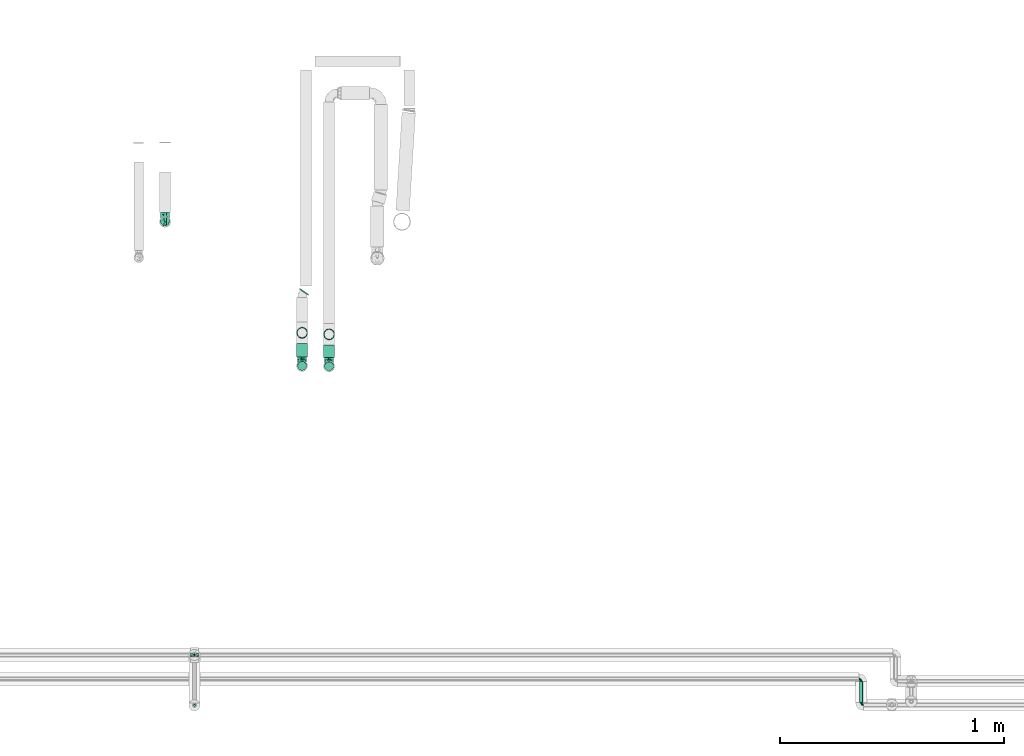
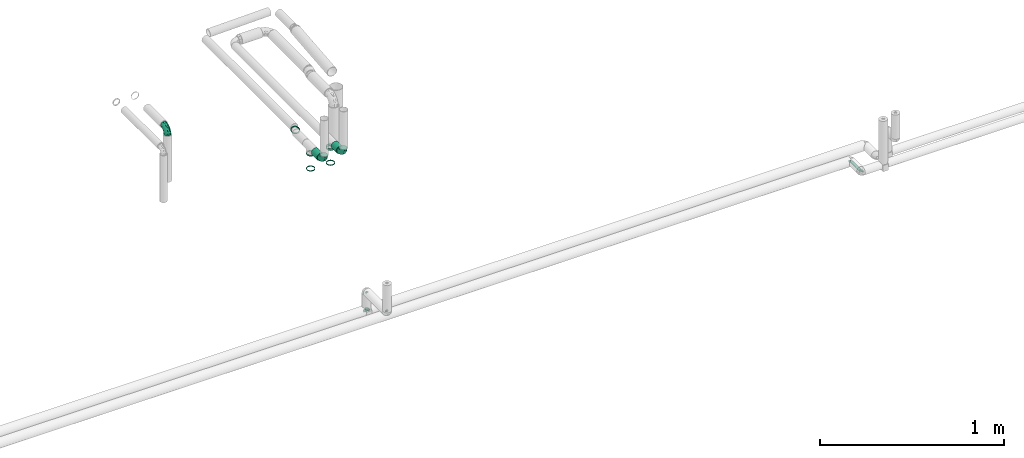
# One storey, part 104 of 156: 8 flow fittings, 8 flow segments.
"""IFC2X3 building model written with IfcOpenShell, lengths in millimetres."""

from ifc_helpers import new_model, entity, si_unit, converted_unit, derived_unit, direction, frame, origin_with_axes, origin_2d_with_axis, place, context, subcontext, project, spatial, hollow_circle, extrude, open_shell, surface_model, source, transform, mapped, type_object, element, save


model = new_model("IFC2X3")

# Units and contexts
model_context = context("Model", 3, precision=0.01, world=frame((0.0, 4.29681676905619e-09, 0.0)), true_north=direction((4.01073788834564e-13, 1.0)))
plan_context = context("Plan", 3, precision=0.01, world=frame((0.0, 4.29681676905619e-09, 0.0)), true_north=direction((4.01073788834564e-13, 1.0)))
body_context = subcontext(model_context, "Body", "Model", "MODEL_VIEW")
ifc_project = project(units=[converted_unit("PLANEANGLEUNIT", "DEGREE", entity("IfcPositiveLengthMeasure", 0.0174532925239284), si_unit("PLANEANGLEUNIT", "RADIAN"), dimensions=[0, 0, 0, 0, 0, 0, 0]), si_unit("AREAUNIT", "SQUARE_METRE"), si_unit("LENGTHUNIT", "METRE", prefix="MILLI"), si_unit("MASSUNIT", "GRAM", prefix="KILO"), si_unit("POWERUNIT", "WATT"), si_unit("PRESSUREUNIT", "PASCAL", prefix="KILO"), si_unit("FORCEUNIT", "NEWTON", prefix="KILO"), si_unit("ELECTRICVOLTAGEUNIT", "VOLT"), si_unit("ELECTRICCURRENTUNIT", "AMPERE"), si_unit("THERMODYNAMICTEMPERATUREUNIT", "DEGREE_CELSIUS"), si_unit("TIMEUNIT", "SECOND"), si_unit("VOLUMEUNIT", "CUBIC_METRE"), derived_unit("LINEARVELOCITYUNIT", [(si_unit("LENGTHUNIT", "METRE"), 1), (si_unit("TIMEUNIT", "SECOND"), -1)]), derived_unit("VOLUMETRICFLOWRATEUNIT", [(si_unit("VOLUMEUNIT", "CUBIC_METRE"), 1), (si_unit("TIMEUNIT", "SECOND"), -1)]), derived_unit("THERMALTRANSMITTANCEUNIT", [(si_unit("POWERUNIT", "WATT"), 1), (si_unit("THERMODYNAMICTEMPERATUREUNIT", "KELVIN"), -1), (si_unit("AREAUNIT", "SQUARE_METRE"), -1)]), derived_unit("SOUNDPRESSUREUNIT", [(si_unit("PRESSUREUNIT", "PASCAL"), 1)])], contexts=[model_context, plan_context])

# Site, building, storey
site_placement = place(None, frame((0.0, -4.29681676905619e-09, 0.0), z_axis=(0.0, 0.0, 1.0), x_axis=(1.0, 0.0, 0.0)))
site = spatial("IfcSite", under=ifc_project, at=site_placement, CompositionType="ELEMENT")
building_placement = place(site_placement, frame((0.0, 4.29681676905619e-09, 0.0), z_axis=(0.0, 0.0, 1.0), x_axis=(1.0, 0.0, 0.0)))
building = spatial("IfcBuilding", under=site, at=building_placement, Name="mc-building", CompositionType="ELEMENT")
storey_placement = place(building_placement, frame((0.0, 0.0, 205200.0), z_axis=(0.0, 0.0, 1.0), x_axis=(1.0, 0.0, 0.0)))
storey = spatial("IfcBuildingStorey", under=building, at=storey_placement, Name="Nivå D + 1,2 m", CompositionType="ELEMENT", Elevation=205200.0)

# Flow fittings
pipe_fitting_type_1 = type_object("IfcPipeFittingType", Name="magi_pipe_elbow_short_001", PredefinedType="BEND")
shared_shape_1 = source(origin_with_axes(), body_context, "Body", "SurfaceModel", [
    surface_model("IfcShellBasedSurfaceModel", [(-40.0, 0.0, -20.0), (-40.0, -14.14214, -14.14214), (-40.0, 5.17638, -19.31852), (-40.0, 10.0, -17.32051), (-40.0, 14.14214, -14.14214), (-40.0, 19.31852, -5.17638), (-40.0, 17.32051, -10.0), (-40.0, -20.0, 0.0), (-40.0, 17.32051, 10.0), (-40.0, -10.0, -17.32051), (-40.0, -5.17638, -19.31852), (-40.0, -19.31852, -5.17638), (-40.0, -17.32051, -10.0), (-40.0, 20.0, 0.0), (-40.0, 19.31852, 5.17638), (-40.0, 5.17638, 19.31852), (-40.0, 10.0, 17.32051), (-40.0, 14.14214, 14.14214), (-40.0, -14.14214, 14.14214), (-40.0, -19.31852, 5.17638), (-40.0, -17.32051, 10.0), (-40.0, -10.0, 17.32051), (-40.0, -5.17638, 19.31852), (-40.0, 0.0, 20.0), (-5.17638, 40.0, -19.31852), (14.14214, 40.0, -14.14214), (0.0, 40.0, -20.0), (-14.14214, 40.0, -14.14214), (-10.0, 40.0, -17.32051), (-17.32051, 40.0, -10.0), (-19.31852, 40.0, -5.17638), (14.14214, 40.0, 14.14214), (20.0, 40.0, 0.0), (5.17638, 40.0, -19.31852), (10.0, 40.0, -17.32051), (17.32051, 40.0, -10.0), (19.31852, 40.0, -5.17638), (-20.0, 40.0, 0.0), (-19.31852, 40.0, 5.17638), (-17.32051, 40.0, 10.0), (-10.0, 40.0, 17.32051), (-5.17638, 40.0, 19.31852), (-14.14214, 40.0, 14.14214), (17.32051, 40.0, 10.0), (19.31852, 40.0, 5.17638), (5.17638, 40.0, 19.31852), (10.0, 40.0, 17.32051), (0.0, 40.0, 20.0), (-29.34188, -15.53782, 11.22746), (-26.26375, -11.53868, 14.90313), (-28.5195, -17.71639, 0.0), (-17.67969, -12.73676, 10.09432), (-26.581, -17.45622, 6.2376), (17.45622, 26.581, 6.2376), (14.11254, 15.66731, 5.12705), (15.43277, 17.03899, 0.0), (9.12884, 16.19937, 13.67918), (11.53868, 26.26374, 14.90313), (4.85407, 15.45219, 16.6156), (-29.39654, -7.56287, 17.99385), (-30.5536, -2.64945, 19.65795), (-28.00649, 3.06573, 19.96591), (-31.36589, 16.64512, 13.11423), (-28.65389, 20.90373, 9.14387), (-35.012, 18.78056, 8.28737), (-7.30629, -8.92959, 0.0), (-15.66731, -14.11254, 5.12706), (-17.03899, -15.43277, 0.0), (-21.08206, 22.33578, 14.16691), (-7.46564, 34.49868, 18.73357), (-2.74108, 29.91718, 19.95088), (-34.60263, 12.11166, 16.29648), (-1.72118, -3.38092, 9.01154), (-0.33521, 0.41269, 11.94686), (-6.79863, -4.78945, 12.32213), (-5.22056, 13.39548, 19.63795), (-9.93759, 3.66904, 18.67597), (-2.04318, 10.80545, 18.37976), (-20.59063, 29.29402, 9.05298), (-30.99684, 23.72923, 0.0), (-33.3079, 20.46931, 5.03972), (-30.83014, 7.84391, 18.89286), (-6.95093, 19.66798, 19.96412), (-14.81429, 14.81429, 19.51404), (-11.90902, 8.73983, 19.89698), (-3.57257, 3.57257, 16.3517), (-15.45219, -4.85407, 16.6156), (-19.91187, -0.17948, 19.38507), (12.73676, 17.67969, 10.09432), (15.53782, 29.34188, 11.22746), (7.56287, 29.39654, 17.99385), (2.64945, 30.5536, 19.65795), (-16.19937, -9.12884, 13.67918), (17.71639, 28.5195, 0.0), (-8.64963, 27.10049, 19.0472), (-12.63856, 30.97531, 16.57751), (-15.12775, 21.6204, 17.82326), (-16.43269, 26.57078, 15.30466), (-21.36029, 17.94675, 16.62052), (-27.3569, 23.76542, 4.76906), (-25.85786, 25.85786, 0.0), (-21.96234, 30.15713, 4.65165), (-16.51055, 31.89032, 13.05667), (-21.9775, 8.56694, 19.64209), (-19.62526, 4.90086, 19.99146), (-21.26232, 13.57052, 18.49883), (-11.65033, 20.761, 19.15903), (0.17948, 19.91187, 19.38507), (-27.54091, 13.57635, 16.84206), (4.55434, 6.94667, 12.66832), (-9.49254, -8.92796, 9.38786), (1.18751, -2.59773, 5.41318), (6.0734, 3.56218, 6.98463), (6.20309, 2.0761, 2.99722), (10.30126, 8.34257, 4.72404), (-23.72923, 30.99684, 0.0), (10.04165, 10.37513, 8.39403), (-5.39039, -7.95342, 5.80688), (2.42641, -2.42641, 0.0), (8.92959, 7.30629, 0.0), (-31.66153, 2.52887, -19.93491), (-17.30171, 29.27577, -13.34599), (-33.67189, -15.92112, -11.62006), (-30.77478, 7.85272, -18.89521), (-27.29854, 23.72276, -5.04381), (-16.33902, -5.04741, -16.77956), (-17.36687, -0.24948, -19.02234), (-8.03574, -0.33468, -16.38792), (-29.03652, 13.11356, -16.72682), (-31.62186, 16.57796, -13.08611), (11.94876, 28.93478, -15.1003), (6.90221, 25.32803, -17.78753), (7.88461, 33.77796, -18.20228), (-24.1205, 18.32787, -15.08398), (14.83158, 25.12948, -10.8327), (14.84608, 18.55034, -6.5666), (11.54106, 15.25773, -10.25258), (-18.52291, 23.24513, -15.40032), (-14.24293, 24.4556, -17.36881), (-18.4841, 18.4841, -17.5607), (-30.25505, -18.06161, 0.0), (-29.17694, -17.90454, -6.52017), (15.92112, 33.67189, -11.62006), (17.90454, 29.17694, -6.52017), (-8.70346, -9.83449, -6.69305), (-18.55035, -14.84608, -6.5666), (-28.93478, -11.94876, -15.1003), (0.19553, 0.48879, -11.49974), (-6.75335, -6.30847, -10.52412), (-6.08129, -2.80708, -13.65166), (-25.12948, -14.83158, -10.8327), (0.84196, 9.39483, -16.67908), (0.24948, 17.36687, -19.02234), (4.13362, 17.07423, -17.47196), (-29.4664, -2.52175, -19.63432), (-33.77796, -7.88461, -18.20228), (-21.82705, -9.13211, -15.70364), (2.52175, 29.4664, -19.63432), (-33.89754, 20.64393, -3.42388), (2.01203, -1.52334, -6.02964), (-19.61026, 31.73902, -8.71711), (-20.93556, 32.45716, -4.4545), (-15.25774, -11.54106, -10.25258), (-7.06048, 7.06048, -18.88537), (-24.30425, 23.77923, -9.81047), (-2.52887, 31.66153, -19.93491), (-8.16417, 29.098, -18.96542), (-12.55313, 31.39831, -16.5449), (-25.32803, -6.90221, -17.78753), (3.46973, 6.97784, -13.67949), (8.1585, 14.93305, -13.99093), (6.60421, 7.04526, -10.40775), (-4.72795, 22.03311, -19.99568), (9.83449, 8.70346, -6.69305), (-10.81456, 11.67039, -19.98865), (-11.83412, 18.95999, -19.40472), (-19.74646, 11.57433, -19.33963), (-31.97533, 19.65868, -8.43762), (18.06161, 30.25505, 0.0), (-22.03311, 4.72795, -19.99568), (-22.92893, 32.92893, 0.0), (-14.93305, -8.1585, -13.99093), (-22.3042, 22.6511, -12.97687)], [open_shell([[[0, 1, 2]], [[3, 2, 4]], [[5, 6, 4]], [[4, 2, 1]], [[4, 7, 8]], [[9, 1, 10]], [[1, 0, 10]], [[11, 7, 12]], [[1, 12, 7]], [[1, 7, 4]], [[13, 5, 4]], [[8, 14, 13]], [[7, 15, 8]], [[8, 15, 16]], [[17, 8, 16]], [[18, 15, 7]], [[19, 20, 7]], [[7, 20, 18]], [[21, 22, 18]], [[22, 15, 18]], [[15, 22, 23]], [[8, 13, 4]], [[24, 25, 26]], [[27, 24, 28]], [[27, 29, 30]], [[25, 24, 27]], [[31, 32, 27]], [[33, 25, 34]], [[33, 26, 25]], [[35, 32, 36]], [[32, 35, 25]], [[27, 32, 25]], [[27, 30, 31]], [[37, 38, 39]], [[30, 39, 31]], [[40, 41, 39]], [[40, 39, 42]], [[31, 39, 41]], [[32, 43, 44]], [[31, 43, 32]], [[31, 45, 46]], [[31, 41, 45]], [[47, 45, 41]], [[30, 37, 39]], [[18, 48, 49]], [[19, 7, 50]], [[51, 48, 52]], [[53, 54, 55]], [[48, 18, 20]], [[19, 52, 20]], [[56, 57, 58]], [[49, 21, 18]], [[49, 59, 21]], [[23, 60, 61]], [[62, 63, 64]], [[65, 66, 67]], [[57, 31, 46]], [[62, 68, 63]], [[41, 69, 70]], [[16, 71, 17]], [[22, 60, 23]], [[72, 73, 74]], [[75, 76, 77]], [[17, 62, 8]], [[39, 38, 78]], [[79, 13, 80]], [[64, 14, 8]], [[23, 61, 15]], [[15, 81, 16]], [[82, 83, 84]], [[74, 85, 86]], [[59, 86, 87]], [[88, 89, 57]], [[90, 46, 45]], [[43, 53, 44]], [[45, 47, 91]], [[54, 53, 88]], [[43, 89, 53]], [[92, 86, 49]], [[89, 43, 31]], [[21, 59, 22]], [[53, 55, 93]], [[93, 44, 53]], [[66, 52, 67]], [[94, 82, 70]], [[95, 96, 94]], [[97, 98, 96]], [[79, 99, 100]], [[40, 42, 95]], [[101, 100, 99]], [[68, 78, 63]], [[41, 40, 69]], [[13, 14, 80]], [[95, 94, 69]], [[78, 101, 99]], [[42, 102, 95]], [[70, 47, 41]], [[97, 95, 102]], [[19, 50, 52]], [[90, 57, 46]], [[57, 90, 58]], [[81, 15, 61]], [[103, 104, 84]], [[105, 81, 103]], [[42, 39, 102]], [[106, 96, 83]], [[94, 106, 82]], [[91, 70, 107]], [[71, 62, 17]], [[62, 108, 98]], [[86, 59, 49]], [[67, 52, 50]], [[60, 59, 87]], [[92, 49, 51]], [[86, 85, 76]], [[91, 90, 45]], [[32, 44, 93]], [[107, 77, 58]], [[107, 58, 90]], [[58, 85, 109]], [[110, 74, 92]], [[72, 74, 110]], [[66, 51, 52]], [[72, 111, 112]], [[113, 114, 112]], [[56, 88, 57]], [[52, 48, 20]], [[49, 48, 51]], [[57, 89, 31]], [[53, 89, 88]], [[103, 81, 61]], [[71, 81, 108]], [[14, 64, 80]], [[63, 78, 99]], [[37, 115, 101]], [[101, 115, 100]], [[39, 78, 102]], [[68, 102, 78]], [[97, 96, 95]], [[105, 98, 108]], [[103, 84, 83]], [[107, 70, 82]], [[76, 84, 87]], [[82, 84, 75]], [[70, 91, 47]], [[90, 91, 107]], [[59, 60, 22]], [[61, 60, 87]], [[73, 85, 74]], [[109, 112, 116]], [[103, 61, 104]], [[105, 103, 83]], [[96, 105, 83]], [[81, 105, 108]], [[96, 98, 105]], [[62, 98, 68]], [[61, 87, 104]], [[87, 84, 104]], [[86, 76, 87]], [[77, 76, 85]], [[58, 77, 85]], [[75, 77, 107]], [[82, 75, 107]], [[76, 75, 84]], [[81, 71, 16]], [[62, 71, 108]], [[95, 69, 40]], [[70, 69, 94]], [[62, 64, 8]], [[80, 63, 99]], [[63, 80, 64]], [[80, 99, 79]], [[66, 65, 117]], [[110, 66, 117]], [[112, 114, 116]], [[118, 117, 65]], [[110, 92, 51]], [[112, 111, 113]], [[119, 55, 54]], [[74, 86, 92]], [[58, 109, 56]], [[116, 56, 109]], [[66, 110, 51]], [[72, 110, 117]], [[111, 72, 117]], [[73, 112, 109]], [[117, 118, 111]], [[113, 111, 118]], [[118, 119, 113]], [[114, 119, 54]], [[119, 114, 113]], [[116, 54, 88]], [[54, 116, 114]], [[116, 88, 56]], [[112, 73, 72]], [[85, 73, 109]], [[78, 38, 101]], [[37, 101, 38]], [[102, 68, 97]], [[97, 68, 98]], [[82, 106, 83]], [[94, 96, 106]], [[2, 120, 0]], [[29, 27, 121]], [[1, 122, 12]], [[3, 123, 2]], [[100, 124, 79]], [[125, 126, 127]], [[128, 4, 129]], [[130, 131, 132]], [[128, 129, 133]], [[134, 135, 136]], [[137, 138, 139]], [[128, 3, 4]], [[67, 140, 141]], [[134, 142, 143]], [[141, 11, 12]], [[144, 65, 145]], [[146, 1, 9]], [[147, 148, 149]], [[145, 141, 150]], [[151, 152, 153]], [[154, 10, 0]], [[9, 155, 146]], [[150, 146, 156]], [[155, 9, 10]], [[143, 135, 134]], [[33, 157, 26]], [[13, 79, 158]], [[148, 159, 144]], [[160, 161, 30]], [[145, 162, 144]], [[163, 152, 151]], [[30, 29, 160]], [[121, 164, 160]], [[34, 25, 130]], [[26, 165, 24]], [[24, 165, 166]], [[142, 25, 35]], [[27, 28, 167]], [[124, 161, 164]], [[157, 33, 132]], [[155, 154, 168]], [[123, 3, 128]], [[169, 170, 171]], [[172, 157, 152]], [[24, 166, 28]], [[132, 33, 34]], [[142, 130, 25]], [[168, 154, 126]], [[136, 135, 173]], [[133, 137, 139]], [[4, 6, 129]], [[170, 131, 130]], [[35, 36, 143]], [[172, 174, 175]], [[176, 123, 128]], [[158, 177, 5]], [[135, 55, 119]], [[167, 28, 166]], [[175, 166, 172]], [[137, 167, 138]], [[122, 141, 12]], [[140, 7, 11]], [[36, 32, 178]], [[170, 130, 134]], [[152, 157, 131]], [[165, 157, 172]], [[153, 170, 151]], [[152, 163, 174]], [[168, 125, 156]], [[122, 146, 150]], [[120, 154, 0]], [[179, 174, 126]], [[179, 126, 154]], [[126, 163, 127]], [[162, 145, 150]], [[140, 11, 141]], [[36, 178, 143]], [[55, 143, 178]], [[177, 129, 6]], [[128, 133, 139]], [[176, 128, 139]], [[120, 123, 179]], [[121, 160, 29]], [[161, 100, 180]], [[166, 175, 138]], [[121, 27, 167]], [[161, 37, 30]], [[79, 124, 158]], [[124, 164, 177]], [[161, 124, 100]], [[136, 171, 170]], [[127, 163, 151]], [[147, 171, 159]], [[148, 144, 162]], [[127, 151, 169]], [[127, 181, 125]], [[129, 177, 164]], [[6, 5, 177]], [[159, 65, 144]], [[67, 141, 145]], [[143, 55, 135]], [[135, 119, 173]], [[123, 120, 2]], [[154, 120, 179]], [[157, 165, 26]], [[166, 165, 172]], [[172, 152, 174]], [[176, 139, 175]], [[126, 174, 163]], [[176, 174, 179]], [[174, 176, 175]], [[123, 176, 179]], [[150, 181, 162]], [[127, 149, 181]], [[181, 148, 162]], [[159, 148, 147]], [[171, 136, 173]], [[170, 134, 136]], [[159, 171, 173]], [[171, 147, 169]], [[169, 147, 149]], [[151, 170, 169]], [[164, 182, 129]], [[182, 121, 137]], [[181, 149, 148]], [[169, 149, 127]], [[182, 137, 133]], [[167, 137, 121]], [[166, 138, 167]], [[175, 139, 138]], [[129, 182, 133]], [[121, 182, 164]], [[161, 160, 164]], [[37, 161, 180]], [[177, 158, 124]], [[13, 158, 5]], [[130, 132, 34]], [[157, 132, 131]], [[143, 142, 35]], [[130, 142, 134]], [[154, 155, 10]], [[146, 155, 168]], [[146, 122, 1]], [[141, 122, 150]], [[152, 131, 153]], [[159, 119, 118]], [[67, 145, 65]], [[170, 153, 131]], [[119, 159, 173]], [[159, 118, 65]], [[156, 125, 181]], [[126, 125, 168]], [[150, 156, 181]], [[168, 156, 146]]])]),
])
for number, where, z_axis, x_axis, name in (
    (1, (343633.85487, 460322.29788, 4249.39240000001), (1.0, 0.0, 0.0), (0.0, 0.0, -1.0), "magi_pipe_elbow_short_001"),
    (2, (343513.62466, 460324.09861, 4244.18497999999), (1.0, 0.0, 0.0), (0.0, 0.0, -1.0), "magi_pipe_elbow_short_001"),
    (3, (342902.82938, 460966.59861, 4284.42444999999), (-1.0, 0.0, 0.0), (0.0, 0.0, 1.0), "magi_pipe_elbow_short_001"),
):
    element("IfcFlowFitting", number, at=place(storey_placement, frame(where, z_axis=z_axis, x_axis=x_axis)), inside=storey, type_object=pipe_fitting_type_1, Name=name, context=body_context, shape_type="MappedRepresentation", body=[
        mapped(shared_shape_1, transform((0.0, 0.0, 0.0), scale=1.0)),
    ])
shared_shape_2 = source(origin_with_axes(), body_context, "Body", "SurfaceModel", [
    surface_model("IfcShellBasedSurfaceModel", [(-10.0, 0.0, -5.0), (-10.0, -3.53553, -3.53553), (-10.0, 1.2941, -4.82963), (-10.0, 2.5, -4.33013), (-10.0, 3.53553, -3.53553), (-10.0, 4.82963, -1.2941), (-10.0, 4.33013, -2.5), (-10.0, -5.0, 0.0), (-10.0, 4.33013, 2.5), (-10.0, -2.5, -4.33013), (-10.0, -1.2941, -4.82963), (-10.0, -4.82963, -1.2941), (-10.0, -4.33013, -2.5), (-10.0, 5.0, 0.0), (-10.0, 4.82963, 1.2941), (-10.0, -3.53553, 3.53553), (-10.0, 1.2941, 4.82963), (-10.0, 2.5, 4.33013), (-10.0, 3.53553, 3.53553), (-10.0, -1.2941, 4.82963), (-10.0, -4.82963, 1.2941), (-10.0, -4.33013, 2.5), (-10.0, -2.5, 4.33013), (-10.0, 0.0, 5.0), (-1.2941, 10.0, -4.82963), (3.53553, 10.0, -3.53553), (0.0, 10.0, -5.0), (-3.53553, 10.0, -3.53553), (-2.5, 10.0, -4.33013), (-4.33013, 10.0, -2.5), (-4.82963, 10.0, -1.2941), (5.0, 10.0, 0.0), (-4.33013, 10.0, 2.5), (1.2941, 10.0, -4.82963), (2.5, 10.0, -4.33013), (4.33013, 10.0, -2.5), (4.82963, 10.0, -1.2941), (-5.0, 10.0, 0.0), (-4.82963, 10.0, 1.2941), (3.53553, 10.0, 3.53553), (-2.5, 10.0, 4.33013), (-1.2941, 10.0, 4.82963), (-3.53553, 10.0, 3.53553), (4.33013, 10.0, 2.5), (4.82963, 10.0, 1.2941), (1.2941, 10.0, 4.82963), (2.5, 10.0, 4.33013), (0.0, 10.0, 5.0), (-5.49842, -3.13538, 0.0), (3.13538, 5.49842, 0.0), (0.6066, -0.6066, 0.0), (-1.45852, 1.45852, 4.54706), (-4.39636, 4.39636, 4.54899), (-6.46447, 6.46447, 0.0), (-4.39636, 4.39636, -4.54899), (-1.45852, 1.45852, -4.54706)], [open_shell([[[0, 1, 2]], [[3, 2, 4]], [[5, 6, 4]], [[4, 2, 7]], [[4, 7, 8]], [[9, 1, 10]], [[1, 0, 10]], [[11, 7, 12]], [[1, 12, 7]], [[1, 7, 2]], [[13, 5, 4]], [[8, 14, 13]], [[15, 8, 7]], [[8, 16, 17]], [[18, 8, 17]], [[16, 8, 19]], [[20, 21, 7]], [[7, 21, 15]], [[22, 19, 15]], [[19, 8, 15]], [[16, 19, 23]], [[8, 13, 4]], [[24, 25, 26]], [[27, 24, 28]], [[27, 29, 30]], [[31, 24, 27]], [[32, 31, 27]], [[33, 25, 34]], [[33, 26, 25]], [[35, 31, 36]], [[31, 35, 25]], [[24, 31, 25]], [[27, 30, 37]], [[37, 38, 32]], [[31, 32, 39]], [[40, 41, 32]], [[40, 32, 42]], [[39, 32, 41]], [[31, 43, 44]], [[39, 43, 31]], [[39, 45, 46]], [[39, 41, 45]], [[47, 45, 41]], [[27, 37, 32]], [[20, 7, 48]], [[21, 20, 48]], [[15, 21, 48]], [[43, 49, 44]], [[50, 49, 51]], [[22, 15, 51]], [[16, 52, 17]], [[16, 23, 51]], [[19, 51, 23]], [[22, 51, 19]], [[48, 51, 15]], [[41, 52, 51]], [[18, 52, 8]], [[52, 18, 17]], [[14, 8, 53]], [[53, 13, 14]], [[8, 52, 53]], [[16, 51, 52]], [[51, 48, 50]], [[46, 45, 51]], [[51, 39, 46]], [[51, 47, 41]], [[31, 44, 49]], [[51, 49, 39]], [[39, 49, 43]], [[32, 38, 53]], [[37, 53, 38]], [[40, 42, 52]], [[32, 52, 42]], [[32, 53, 52]], [[40, 52, 41]], [[47, 51, 45]], [[2, 3, 54]], [[2, 55, 0]], [[53, 6, 5]], [[24, 54, 28]], [[4, 6, 54]], [[34, 55, 33]], [[54, 6, 53]], [[4, 54, 3]], [[48, 7, 11]], [[12, 1, 48]], [[10, 55, 9]], [[48, 1, 55]], [[1, 9, 55]], [[10, 0, 55]], [[5, 13, 53]], [[53, 37, 30]], [[2, 54, 55]], [[53, 30, 29]], [[54, 29, 27]], [[36, 31, 49]], [[54, 24, 55]], [[12, 48, 11]], [[50, 48, 55]], [[54, 27, 28]], [[26, 55, 24]], [[55, 34, 25]], [[55, 25, 49]], [[35, 36, 49]], [[55, 49, 50]], [[49, 25, 35]], [[33, 55, 26]], [[54, 53, 29]]])]),
])
for number, where, z_axis, x_axis, name in (
    (4, (343033.7464, 459036.28651, 4328.32044000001), (1.0, 0.0, 0.0), (0.0, 0.0, 1.0), "magi_pipe_elbow_short_001"),
    (5, (343033.7464, 458811.28651, 4328.32044000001), (-1.0, 0.0, 0.0), (0.0, -1.0, 0.0), "magi_pipe_elbow_short_001"),
    (6, (346005.0, 458928.61963, 4216.68835000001), (0.0, 0.0, 1.0), (0.0, 1.0, 0.0), "magi_pipe_elbow_short_001"),
    (7, (346005.0, 458813.61963, 4216.68835000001), (0.0, 0.0, 1.0), (0.0, -1.0, 0.0), "magi_pipe_elbow_short_001"),
):
    element("IfcFlowFitting", number, at=place(storey_placement, frame(where, z_axis=z_axis, x_axis=x_axis)), inside=storey, type_object=pipe_fitting_type_1, Name=name, context=body_context, shape_type="MappedRepresentation", body=[
        mapped(shared_shape_2, transform((0.0, 0.0, 0.0), scale=1.0)),
    ])
pipe_fitting_type_2 = type_object("IfcPipeFittingType", Name="magi_pipe_fe_tee_centric_90_001", PredefinedType="JUNCTION")
shared_shape_3 = source(origin_with_axes(), body_context, "Body", "SurfaceModel", [
    surface_model("IfcShellBasedSurfaceModel", [(-17.2, 0.0, -8.6), (-17.2, -8.6, 0.0), (-17.2, 2.22584, -8.30696), (-17.2, 4.3, -7.44782), (-17.2, 7.44782, -4.3), (-17.2, 8.30696, 2.22584), (-17.2, 6.08112, -6.08112), (-17.2, 8.6, 0.0), (-17.2, -6.08112, -6.08112), (-17.2, -7.44782, -4.3), (-17.2, -4.3, -7.44782), (-17.2, -2.22584, -8.30696), (-17.2, -8.30696, -2.22584), (-17.2, 8.30696, -2.22584), (-17.2, 4.3, 7.44782), (-17.2, 7.44782, 4.3), (-17.2, -4.3, 7.44782), (-17.2, 6.08112, 6.08112), (-17.2, 0.0, 8.6), (-17.2, 2.22584, 8.30696), (-17.2, -7.44782, 4.3), (-17.2, -6.08112, 6.08112), (-17.2, -8.30696, 2.22584), (-17.2, -2.22584, 8.30696), (17.2, 2.22584, -8.30696), (17.2, -4.3, -7.44782), (17.2, 0.0, -8.6), (17.2, 7.44782, -4.3), (17.2, 4.3, -7.44782), (17.2, -8.30696, 2.22584), (17.2, -8.6, 0.0), (17.2, 6.08112, -6.08112), (17.2, -7.44782, -4.3), (17.2, -6.08112, -6.08112), (17.2, -2.22584, -8.30696), (17.2, -8.30696, -2.22584), (17.2, 8.30696, -2.22584), (17.2, 8.6, 0.0), (17.2, 2.22584, 8.30696), (17.2, 8.30696, 2.22584), (17.2, 7.44782, 4.3), (17.2, 4.3, 7.44782), (17.2, 6.08112, 6.08112), (17.2, 0.0, 8.6), (17.2, -7.44782, 4.3), (17.2, -4.3, 7.44782), (17.2, -6.08112, 6.08112), (17.2, -2.22584, 8.30696), (8.6, -8.6, 0.0), (8.28805, -8.28805, 2.29527), (7.44335, -7.44335, 4.30773), (6.24056, -6.24056, 5.91738), (4.82014, -4.82014, 7.12224), (-8.6, -8.6, 0.0), (-8.28805, -8.28805, 2.29527), (-7.44335, -7.44335, 4.30773), (-6.24056, -6.24056, 5.91738), (-4.82014, -4.82014, 7.12224), (3.27153, -3.27153, 7.95343), (1.65141, -1.65141, 8.43995), (0.0, 0.0, 8.6), (-3.27153, -3.27153, 7.95343), (-1.65141, -1.65141, 8.43995), (0.0, 0.0, -8.6), (3.27153, -3.27153, -7.95343), (1.65141, -1.65141, -8.43995), (4.82014, -4.82014, -7.12224), (-1.65141, -1.65141, -8.43995), (-3.27153, -3.27153, -7.95343), (-4.82014, -4.82014, -7.12224), (6.24056, -6.24056, -5.91738), (7.44335, -7.44335, -4.30773), (8.28805, -8.28805, -2.29527), (-6.24056, -6.24056, -5.91738), (-7.44335, -7.44335, -4.30773), (-8.28805, -8.28805, -2.29527), (0.0, -12.9, -8.6), (2.22584, -12.9, -8.30696), (4.3, -12.9, -7.44782), (6.08112, -12.9, -6.08112), (7.44782, -12.9, -4.3), (8.30696, -12.9, -2.22584), (-6.08112, -12.9, -6.08112), (-8.30696, -12.9, 2.22584), (-2.22584, -12.9, -8.30696), (-4.3, -12.9, -7.44782), (-8.30696, -12.9, -2.22584), (-7.44782, -12.9, -4.3), (-8.6, -12.9, 0.0), (8.30696, -12.9, 2.22584), (2.22584, -12.9, 8.30696), (7.44782, -12.9, 4.3), (4.3, -12.9, 7.44782), (6.08112, -12.9, 6.08112), (0.0, -12.9, 8.6), (-6.08112, -12.9, 6.08112), (-7.44782, -12.9, 4.3), (-4.3, -12.9, 7.44782), (-2.22584, -12.9, 8.30696), (8.6, -12.9, 0.0)], [open_shell([[[0, 1, 2]], [[3, 2, 4]], [[2, 1, 5]], [[6, 3, 4]], [[2, 7, 4]], [[8, 9, 10]], [[11, 10, 9]], [[12, 1, 9]], [[0, 11, 9]], [[9, 1, 0]], [[7, 13, 4]], [[14, 5, 1]], [[15, 5, 14]], [[1, 16, 14]], [[17, 15, 14]], [[14, 18, 19]], [[1, 20, 21]], [[20, 1, 22]], [[16, 23, 14]], [[21, 16, 1]], [[18, 14, 23]], [[7, 2, 5]], [[24, 25, 26]], [[27, 24, 28]], [[29, 30, 24]], [[27, 28, 31]], [[27, 29, 24]], [[25, 32, 33]], [[25, 34, 26]], [[32, 30, 35]], [[32, 25, 24]], [[30, 32, 24]], [[27, 36, 37]], [[38, 37, 39]], [[38, 39, 40]], [[41, 38, 40]], [[41, 40, 42]], [[37, 38, 43]], [[44, 45, 46]], [[44, 29, 37]], [[45, 43, 47]], [[45, 44, 37]], [[43, 45, 37]], [[37, 29, 27]], [[30, 29, 48]], [[29, 49, 48]], [[49, 29, 44]], [[49, 44, 50]], [[46, 45, 51]], [[51, 50, 46]], [[52, 51, 45]], [[46, 50, 44]], [[53, 54, 22]], [[53, 22, 1]], [[22, 54, 20]], [[54, 55, 20]], [[56, 57, 16]], [[56, 21, 55]], [[21, 56, 16]], [[55, 21, 20]], [[16, 57, 23]], [[52, 45, 47]], [[43, 58, 52]], [[58, 38, 59]], [[38, 58, 43]], [[59, 38, 41]], [[43, 52, 47]], [[41, 42, 60]], [[60, 40, 39]], [[40, 60, 42]], [[41, 60, 59]], [[60, 39, 37]], [[19, 61, 62]], [[18, 23, 57]], [[19, 18, 61]], [[18, 57, 61]], [[62, 60, 14]], [[60, 5, 15]], [[15, 17, 60]], [[14, 19, 62]], [[60, 17, 14]], [[5, 60, 7]], [[60, 37, 7]], [[36, 63, 37]], [[31, 63, 27]], [[63, 36, 27]], [[63, 31, 28]], [[24, 26, 64]], [[24, 64, 65]], [[66, 64, 26]], [[66, 26, 34]], [[24, 65, 28]], [[63, 28, 65]], [[63, 3, 6]], [[13, 63, 4]], [[6, 4, 63]], [[63, 13, 7]], [[67, 2, 3]], [[2, 68, 0]], [[11, 0, 69]], [[67, 68, 2]], [[67, 3, 63]], [[7, 37, 63]], [[25, 33, 70]], [[70, 66, 25]], [[71, 70, 33]], [[33, 32, 71]], [[32, 35, 72]], [[35, 48, 72]], [[48, 35, 30]], [[32, 72, 71]], [[69, 10, 11]], [[10, 73, 8]], [[73, 10, 69]], [[8, 73, 74]], [[69, 0, 68]], [[75, 53, 12]], [[74, 75, 9]], [[75, 12, 9]], [[12, 53, 1]], [[74, 9, 8]], [[66, 34, 25]], [[76, 77, 78]], [[76, 78, 79]], [[79, 80, 81]], [[79, 81, 76]], [[82, 76, 83]], [[84, 82, 85]], [[84, 76, 82]], [[82, 86, 87]], [[86, 82, 88]], [[82, 83, 88]], [[83, 76, 81]], [[81, 89, 90]], [[90, 89, 91]], [[92, 90, 91]], [[92, 91, 93]], [[81, 90, 94]], [[83, 95, 96]], [[81, 95, 83]], [[97, 94, 98]], [[95, 81, 97]], [[97, 81, 94]], [[89, 81, 99]], [[83, 53, 88]], [[96, 54, 83]], [[55, 95, 97]], [[97, 98, 55]], [[96, 95, 54]], [[94, 56, 98]], [[54, 53, 83]], [[55, 54, 95]], [[51, 57, 56]], [[58, 62, 61]], [[61, 57, 52]], [[55, 98, 56]], [[94, 51, 56]], [[92, 50, 90]], [[93, 50, 92]], [[49, 91, 89]], [[99, 48, 89]], [[93, 91, 49]], [[49, 89, 48]], [[60, 62, 59]], [[59, 62, 58]], [[49, 50, 93]], [[52, 57, 51]], [[50, 51, 90]], [[61, 52, 58]], [[51, 94, 90]], [[81, 48, 99]], [[80, 72, 81]], [[71, 79, 78]], [[78, 77, 71]], [[80, 79, 72]], [[76, 70, 77]], [[72, 48, 81]], [[71, 72, 79]], [[73, 66, 70]], [[68, 65, 64]], [[64, 66, 69]], [[71, 77, 70]], [[76, 73, 70]], [[85, 74, 84]], [[82, 74, 85]], [[75, 87, 86]], [[88, 53, 86]], [[82, 87, 75]], [[75, 86, 53]], [[63, 65, 67]], [[67, 65, 68]], [[75, 74, 82]], [[69, 66, 73]], [[74, 73, 84]], [[64, 69, 68]], [[73, 76, 84]]])]),
])
flow_fitting_placement = place(storey_placement, frame((343033.7464, 459036.28651, 4203.32044000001), z_axis=(0.0, -1.0, 0.0), x_axis=(-1.0, 0.0, 0.0)))
element("IfcFlowFitting", 8, at=flow_fitting_placement, inside=storey, type_object=pipe_fitting_type_2, Name="magi_pipe_fe_tee_centric_90_001", context=body_context, shape_type="MappedRepresentation", body=[
    mapped(shared_shape_3, transform((0.0, 0.0, 0.0), scale=1.0)),
])

# Flow segments
pipe_segment_type = type_object("IfcPipeSegmentType", Name="Stålrør normaltykke", PredefinedType="RIGIDSEGMENT")
shared_shape_4 = source(origin_with_axes(), body_context, "Body", "SweptSolid", [
    extrude(hollow_circle(Radius=24.1, WallThickness=2.0, at=origin_2d_with_axis()), frame((0.0, 0.0, 0.0), z_axis=(1.0, 0.0, 0.0), x_axis=(0.0, 1.0, 0.0)), (0.0, 0.0, 1.0), 6.3),
])
for number, where, z_axis, x_axis in (
    (9, (343633.85487, 460464.56688, 4105.71252), (1.0, 0.0, 0.0), (0.0, 0.0, -1.0)),
    (10, (343513.62466, 460471.48543, 4105.71252), (1.0, 0.0, 0.0), (0.0, 0.0, -1.0)),
):
    element("IfcFlowSegment", number, at=place(storey_placement, frame(where, z_axis=z_axis, x_axis=x_axis)), inside=storey, type_object=pipe_segment_type, Name="Stålrør normaltykke", context=body_context, shape_type="MappedRepresentation", body=[
        mapped(shared_shape_4, transform((0.0, 0.0, 0.0), scale=1.0)),
    ])
shared_shape_5 = source(origin_with_axes(), body_context, "Body", "SweptSolid", [
    extrude(hollow_circle(Radius=24.1, WallThickness=2.0, at=origin_2d_with_axis()), frame((0.0, 0.0, 0.0), z_axis=(1.0, 0.0, 0.0), x_axis=(0.0, 1.0, 0.0)), (0.0, 0.0, 1.0), 53.9),
])
flow_segment_1_placement = place(storey_placement, frame((343633.85487, 460362.29788, 4249.42444999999), z_axis=(0.0, 0.0, 1.0), x_axis=(0.0, 1.0, 0.0)))
element("IfcFlowSegment", 11, at=flow_segment_1_placement, inside=storey, type_object=pipe_segment_type, Name="Stålrør normaltykke", context=body_context, shape_type="MappedRepresentation", body=[
    mapped(shared_shape_5, transform((0.0, 0.0, 0.0), scale=1.0)),
])
shared_shape_6 = source(origin_with_axes(), body_context, "Body", "SweptSolid", [
    extrude(hollow_circle(Radius=24.1, WallThickness=2.0, at=origin_2d_with_axis()), frame((0.0, 0.0, 0.0), z_axis=(1.0, 0.0, 0.0), x_axis=(0.0, 1.0, 0.0)), (0.0, 0.0, 1.0), 5.3),
])
flow_segment_2_placement = place(storey_placement, frame((343520.85538, 460651.92822, 4244.18497999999), z_axis=(0.0, 0.0, 1.0), x_axis=(0.573462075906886, 0.819232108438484, 0.0)))
element("IfcFlowSegment", 12, at=flow_segment_2_placement, inside=storey, type_object=pipe_segment_type, Name="Stålrør normaltykke", context=body_context, shape_type="MappedRepresentation", body=[
    mapped(shared_shape_6, transform((0.0, 0.0, 0.0), scale=1.0)),
])
shared_shape_7 = source(origin_with_axes(), body_context, "Body", "SweptSolid", [
    extrude(hollow_circle(Radius=24.1, WallThickness=2.0, at=origin_2d_with_axis()), frame((0.0, 0.0, 0.0), z_axis=(1.0, 0.0, 0.0), x_axis=(0.0, 1.0, 0.0)), (0.0, 0.0, 1.0), 59.0),
])
flow_segment_3_placement = place(storey_placement, frame((343513.62466, 460364.09861, 4244.18497999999), z_axis=(0.0, 0.0, 1.0), x_axis=(0.0, 1.0, 0.0)))
element("IfcFlowSegment", 13, at=flow_segment_3_placement, inside=storey, type_object=pipe_segment_type, Name="Stålrør normaltykke", context=body_context, shape_type="MappedRepresentation", body=[
    mapped(shared_shape_7, transform((0.0, 0.0, 0.0), scale=1.0)),
])
shared_shape_8 = source(origin_with_axes(), body_context, "Body", "SweptSolid", [
    extrude(hollow_circle(Radius=8.6, WallThickness=2.0, at=origin_2d_with_axis()), frame((0.0, 0.0, 0.0), z_axis=(1.0, 0.0, 0.0), x_axis=(0.0, 1.0, 0.0)), (0.0, 0.0, 1.0), 95.0),
])
flow_segment_4_placement = place(storey_placement, frame((346005.0, 458918.61963, 4216.68835000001), z_axis=(0.0, 0.0, 1.0), x_axis=(0.0, -1.0, 0.0)))
element("IfcFlowSegment", 14, at=flow_segment_4_placement, inside=storey, type_object=pipe_segment_type, Name="Stålrør normaltykke", context=body_context, shape_type="MappedRepresentation", body=[
    mapped(shared_shape_8, transform((0.0, 0.0, 0.0), scale=1.0)),
])
shared_shape_9 = source(origin_with_axes(), body_context, "Body", "SweptSolid", [
    extrude(hollow_circle(Radius=24.1, WallThickness=2.0, at=origin_2d_with_axis()), frame((0.0, 0.0, 0.0), z_axis=(1.0, 0.0, 0.0), x_axis=(0.0, 1.0, 0.0)), (0.0, 0.0, 1.0), 14.4),
])
flow_segment_5_placement = place(storey_placement, frame((343633.85487, 460464.56688, 4213.12445), z_axis=(1.0, 0.0, 0.0), x_axis=(0.0, 0.0, -1.0)))
element("IfcFlowSegment", 15, at=flow_segment_5_placement, inside=storey, type_object=pipe_segment_type, Name="Stålrør normaltykke", context=body_context, shape_type="MappedRepresentation", body=[
    mapped(shared_shape_9, transform((0.0, 0.0, 0.0), scale=1.0)),
])
shared_shape_10 = source(origin_with_axes(), body_context, "Body", "SweptSolid", [
    extrude(hollow_circle(Radius=24.1, WallThickness=2.0, at=origin_2d_with_axis()), frame((0.0, 0.0, 0.0), z_axis=(1.0, 0.0, 0.0), x_axis=(0.0, 1.0, 0.0)), (0.0, 0.0, 1.0), 9.2),
])
flow_segment_6_placement = place(storey_placement, frame((343513.62466, 460471.48543, 4207.88498), z_axis=(1.0, 0.0, 0.0), x_axis=(0.0, 0.0, -1.0)))
element("IfcFlowSegment", 16, at=flow_segment_6_placement, inside=storey, type_object=pipe_segment_type, Name="Stålrør normaltykke", context=body_context, shape_type="MappedRepresentation", body=[
    mapped(shared_shape_10, transform((0.0, 0.0, 0.0), scale=1.0)),
])

save(model, "model.ifc")
